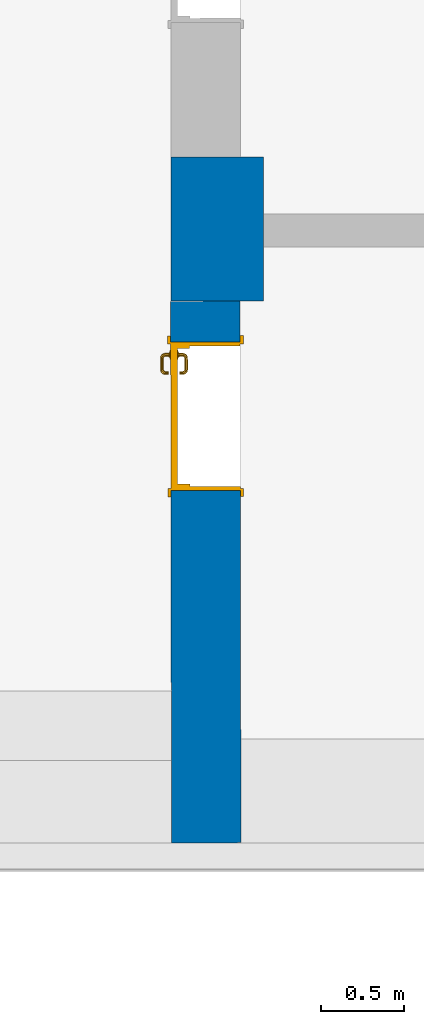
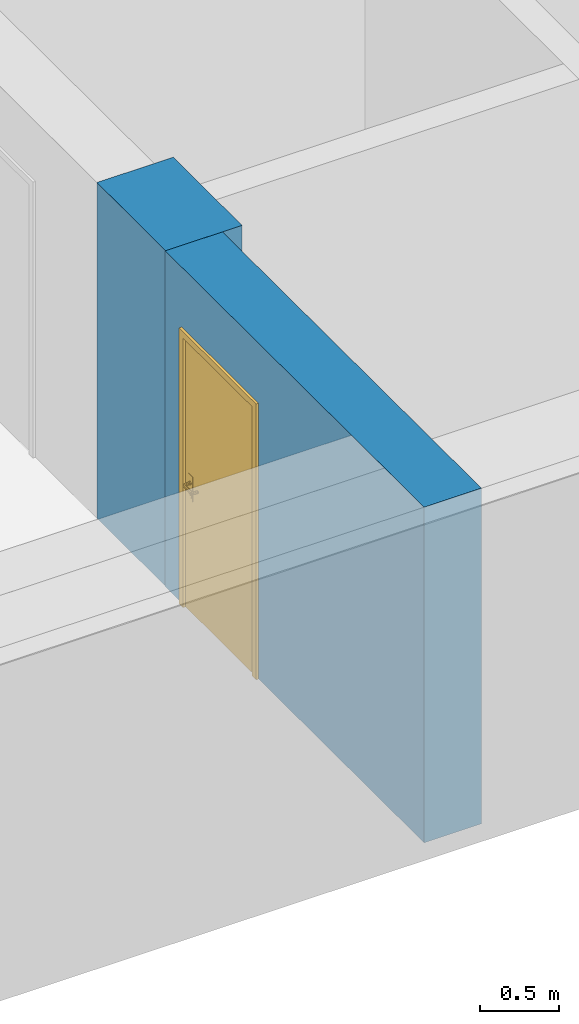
# One storey, part 15 of 127: 2 walls, 1 door, 1 opening.
"""IFC2X3 building model written with IfcOpenShell, lengths in millimetres."""

from ifc_helpers import new_model, entity, si_unit, converted_unit, derived_unit, money_unit, direction, frame, origin_with_axes, origin_2d_with_axis, place, context, subcontext, project, spatial, polyline, rectangle, outline, extrude, open_shell, faceted_brep, surface_model, source, transform, mapped, material, layer, layer_set, layer_usage, type_object, element, fill, save


model = new_model("IFC2X3")

# Units and contexts
model_context = context("Model", 3, precision=1e-05, world=origin_with_axes(), true_north=direction((0.0, 1.0)))
body_context = subcontext(model_context, "Body", "Model", "MODEL_VIEW")
ifc_project = project(units=[si_unit("LENGTHUNIT", "METRE", prefix="MILLI"), si_unit("AREAUNIT", "SQUARE_METRE"), si_unit("VOLUMEUNIT", "CUBIC_METRE"), converted_unit("PLANEANGLEUNIT", "DEGREE", entity("IfcPlaneAngleMeasure", 0.0174532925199), si_unit("PLANEANGLEUNIT", "RADIAN"), dimensions=[0, 0, 0, 0, 0, 0, 0]), si_unit("SOLIDANGLEUNIT", "STERADIAN"), money_unit("EUR"), converted_unit("TIMEUNIT", "Year", entity("IfcTimeMeasure", 31556926.0), si_unit("TIMEUNIT", "SECOND"), dimensions=[0, 0, 1, 0, 0, 0, 0]), si_unit("MASSUNIT", "GRAM", prefix="KILO"), si_unit("THERMODYNAMICTEMPERATUREUNIT", "DEGREE_CELSIUS"), si_unit("LUMINOUSINTENSITYUNIT", "LUMEN"), si_unit("ENERGYUNIT", "JOULE", prefix="MEGA"), derived_unit("THERMALCONDUCTANCEUNIT", [(si_unit("POWERUNIT", "WATT"), 1), (si_unit("LENGTHUNIT", "METRE"), -1), (si_unit("THERMODYNAMICTEMPERATUREUNIT", "KELVIN"), -1)]), derived_unit("SPECIFICHEATCAPACITYUNIT", [(si_unit("ENERGYUNIT", "JOULE"), 1), (si_unit("MASSUNIT", "GRAM", prefix="KILO"), -1), (si_unit("THERMODYNAMICTEMPERATUREUNIT", "KELVIN"), -1)]), derived_unit("MASSDENSITYUNIT", [(si_unit("MASSUNIT", "GRAM", prefix="KILO"), 1), (si_unit("VOLUMEUNIT", "CUBIC_METRE"), -1)])], contexts=[model_context])

# Site, building, storey
site_placement = place(None, origin_with_axes())
site = spatial("IfcSite", under=ifc_project, at=site_placement, Name="Site", CompositionType="ELEMENT")
building_placement = place(site_placement, origin_with_axes())
building = spatial("IfcBuilding", under=site, at=building_placement, Name="Building", CompositionType="ELEMENT")
storey_placement = place(building_placement, origin_with_axes())
storey = spatial("IfcBuildingStorey", under=building, at=storey_placement, Name="1 KORRUS", CompositionType="ELEMENT", Elevation=0.0)

# Wall
ifc_material = material(Name="Kivi -Ol.Olev Konstruktsioon")
ifc_layer_1 = layer(ifc_material, 560.0, ventilated="UNKNOWN")
ifc_layer_set_1 = layer_set([ifc_layer_1], Name="ol.olev ss 560")
ifc_layer_usage_1 = layer_usage(ifc_layer_set_1, "AXIS2", "POSITIVE", 0.0)
wall_type = type_object("IfcWallType", Name="SW - 036", PredefinedType="NOTDEFINED")
wall_1_placement = place(storey_placement, frame((87737.4202763, 38410.2609217, 0.0), z_axis=(0.0, 0.0, 1.0), x_axis=(1.33588272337e-10, -1.0, 0.0)))
element("IfcWallStandardCase", 1, at=wall_1_placement, inside=storey, type_object=wall_type, material=ifc_layer_usage_1, Name="ol.olev ss 560", context=body_context, shape_type="SweptSolid", body=[
    extrude(outline(polyline([(-9.09494701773e-10, 0.0), (871.448666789, 0.0), (871.448666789, 560.0), (-0.340952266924, 560.0), (-9.09494701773e-10, 0.0)])), origin_with_axes(), (0.0, 0.0, 1.0), 2600.0),
])

# Wall, opening, door
ifc_layer_2 = layer(ifc_material, 420.0, ventilated="UNKNOWN")
ifc_layer_set_2 = layer_set([ifc_layer_2], Name="ol.olev ss 420")
ifc_layer_usage_2 = layer_usage(ifc_layer_set_2, "AXIS2", "POSITIVE", 0.0)
wall_2_placement = place(storey_placement, frame((87734.4179407, 37538.4659637, 0.0), z_axis=(0.0, 0.0, 1.0), x_axis=(0.00162531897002, -0.999998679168, 0.0)))
wall_2 = element("IfcWallStandardCase", 2, at=wall_2_placement, inside=storey, type_object=wall_type, material=ifc_layer_usage_2, Name="ol.olev ss 420", context=body_context, shape_type="SweptSolid", body=[
    extrude(outline(polyline([(0.0, 0.0), (3276.29877416, 0.0), (3276.29877416, 420.0), (0.0, 420.0), (0.0, 0.0)])), origin_with_axes(), (0.0, 0.0, 1.0), 2600.0),
])
opening_placement = place(wall_2_placement, frame((695.574973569, -1.13686837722e-10, 0.0), z_axis=(0.0, 0.0, 1.0), x_axis=(1.0, 0.0, 0.0)))
opening = element("IfcOpeningElement", 3, at=opening_placement, cuts=wall_2, Name="Siseuks * Door 22", context=body_context, shape_type="SweptSolid", body=[
    extrude(rectangle(XDim=899.999999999, YDim=2100.0, at=origin_2d_with_axis()), frame((0.0, 420.0, 1050.0), z_axis=(0.0, 1.0, 0.0), x_axis=(1.0, 0.0, 0.0)), (0.0, 0.0, -1.0), 1260.0),
    extrude(rectangle(XDim=973.999999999, YDim=2137.0, at=origin_2d_with_axis()), frame((-9.09494701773e-10, 420.0, 1068.5), z_axis=(0.0, 1.0, 0.0), x_axis=(1.0, 0.0, 0.0)), (0.0, 0.0, 1.0), 420.0),
    extrude(rectangle(XDim=973.999999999, YDim=2137.0, at=origin_2d_with_axis()), frame((0.0, 0.0, 1068.5), z_axis=(0.0, -1.0, 0.0), x_axis=(1.0, 0.0, 0.0)), (0.0, 0.0, 1.0), 420.0),
])
door_style = type_object("IfcDoorStyle", Name="SU-B131B   900×2\xa0100", ConstructionType="NOTDEFINED", OperationType="SINGLE_SWING_LEFT", ParameterTakesPrecedence=False, Sizeable=False)
shared_shape = source(origin_with_axes(), body_context, "Body", "SurfaceModel", [
    faceted_brep([(450.0, -115.0, 0.0), (450.0, -420.0, 0.0), (425.0, -420.0, 0.0), (425.0, -115.0, 0.0), (450.0, -115.0, 2100.0), (450.0, -420.0, 2100.0), (425.0, -420.0, 2075.0), (425.0, -115.0, 2075.0)], [[[0, 1, 2, 3]], [[4, 5, 1, 0]], [[1, 5, 6, 2]], [[3, 2, 6, 7]], [[0, 3, 7, 4]], [[7, 6, 5, 4]]]),
    faceted_brep([(-450.0, -115.0, 2100.0), (-450.0, -420.0, 2100.0), (-425.0, -420.0, 2075.0), (-425.0, -115.0, 2075.0), (-450.0, -115.0, 0.0), (-450.0, -420.0, 0.0), (-425.0, -420.0, 0.0), (-425.0, -115.0, 0.0)], [[[0, 1, 2, 3]], [[4, 5, 1, 0]], [[1, 5, 6, 2]], [[3, 2, 6, 7]], [[0, 3, 7, 4]], [[7, 6, 5, 4]]]),
    faceted_brep([(425.0, -115.0, 2075.0), (425.0, -420.0, 2075.0), (-425.0, -420.0, 2075.0), (-425.0, -115.0, 2075.0), (450.0, -115.0, 2100.0), (450.0, -420.0, 2100.0), (-450.0, -420.0, 2100.0), (-450.0, -115.0, 2100.0)], [[[0, 1, 2, 3]], [[4, 5, 1, 0]], [[1, 5, 6, 2]], [[3, 2, 6, 7]], [[0, 3, 7, 4]], [[7, 6, 5, 4]]]),
    faceted_brep([(487.0, -439.0, 0.0), (437.0, -439.0, 0.0), (437.0, -420.0, 0.0), (487.0, -420.0, 0.0), (487.0, -439.0, 2137.0), (437.0, -439.0, 2087.0), (437.0, -420.0, 2087.0), (487.0, -420.0, 2137.0)], [[[0, 1, 2, 3]], [[0, 4, 5, 1]], [[1, 5, 6, 2]], [[3, 2, 6, 7]], [[4, 0, 3, 7]], [[5, 4, 7, 6]]]),
    faceted_brep([(-487.0, -439.0, 2137.0), (-437.0, -439.0, 2087.0), (-437.0, -420.0, 2087.0), (-487.0, -420.0, 2137.0), (-487.0, -439.0, 0.0), (-437.0, -439.0, 0.0), (-437.0, -420.0, 0.0), (-487.0, -420.0, 0.0)], [[[0, 1, 2, 3]], [[0, 4, 5, 1]], [[1, 5, 6, 2]], [[3, 2, 6, 7]], [[4, 0, 3, 7]], [[5, 4, 7, 6]]]),
    faceted_brep([(487.0, -439.0, 2137.0), (437.0, -439.0, 2087.0), (437.0, -420.0, 2087.0), (487.0, -420.0, 2137.0), (-487.0, -439.0, 2137.0), (-437.0, -439.0, 2087.0), (-437.0, -420.0, 2087.0), (-487.0, -420.0, 2137.0)], [[[0, 1, 2, 3]], [[0, 4, 5, 1]], [[1, 5, 6, 2]], [[3, 2, 6, 7]], [[4, 0, 3, 7]], [[5, 4, 7, 6]]]),
    faceted_brep([(487.0, 19.0, 0.0), (487.0, 0.0, 0.0), (437.0, 0.0, 0.0), (437.0, 19.0, 0.0), (487.0, 19.0, 2137.0), (487.0, 0.0, 2137.0), (437.0, 0.0, 2087.0), (437.0, 19.0, 2087.0)], [[[0, 1, 2, 3]], [[4, 5, 1, 0]], [[1, 5, 6, 2]], [[3, 2, 6, 7]], [[0, 3, 7, 4]], [[7, 6, 5, 4]]]),
    faceted_brep([(-487.0, 19.0, 2137.0), (-487.0, 0.0, 2137.0), (-437.0, 0.0, 2087.0), (-437.0, 19.0, 2087.0), (-487.0, 19.0, 0.0), (-487.0, 0.0, 0.0), (-437.0, 0.0, 0.0), (-437.0, 19.0, 0.0)], [[[0, 1, 2, 3]], [[4, 5, 1, 0]], [[1, 5, 6, 2]], [[3, 2, 6, 7]], [[0, 3, 7, 4]], [[7, 6, 5, 4]]]),
    faceted_brep([(487.0, 19.0, 2137.0), (487.0, 0.0, 2137.0), (437.0, 0.0, 2087.0), (437.0, 19.0, 2087.0), (-487.0, 19.0, 2137.0), (-487.0, 0.0, 2137.0), (-437.0, 0.0, 2087.0), (-437.0, 19.0, 2087.0)], [[[0, 1, 2, 3]], [[4, 5, 1, 0]], [[1, 5, 6, 2]], [[3, 2, 6, 7]], [[0, 3, 7, 4]], [[7, 6, 5, 4]]]),
    faceted_brep([(410.0, -40.0, 0.0), (410.0, -115.0, 0.0), (410.0, -115.0, 2060.0), (410.0, -40.0, 2060.0), (422.0, -40.0, 0.0), (422.0, 0.0, 0.0), (450.0, 0.0, 0.0), (450.0, -115.0, 0.0), (450.0, -115.0, 2060.0), (422.0, -40.0, 2060.0), (450.0, 0.0, 2060.0), (422.0, 0.0, 2060.0)], [[[0, 1, 2, 3]], [[4, 5, 6, 7, 1, 0]], [[1, 7, 8, 2]], [[9, 3, 2, 8, 10, 11]], [[9, 4, 0, 3]], [[11, 5, 4, 9]], [[11, 10, 6, 5]], [[6, 10, 8, 7]]]),
    faceted_brep([(-422.0, -40.0, 2060.0), (-422.0, 0.0, 2060.0), (-450.0, 0.0, 2060.0), (-450.0, -115.0, 2060.0), (-410.0, -115.0, 2060.0), (-410.0, -40.0, 2060.0), (-422.0, -40.0, 0.0), (-422.0, 0.0, 0.0), (-450.0, 0.0, 0.0), (-450.0, -115.0, 0.0), (-410.0, -115.0, 0.0), (-410.0, -40.0, 0.0)], [[[0, 1, 2, 3, 4, 5]], [[0, 6, 7, 1]], [[7, 8, 2, 1]], [[2, 8, 9, 3]], [[3, 9, 10, 4]], [[5, 4, 10, 11]], [[5, 11, 6, 0]], [[6, 11, 10, 9, 8, 7]]]),
    faceted_brep([(422.0, 0.0, 2072.0), (-422.0, 0.0, 2072.0), (-422.0, 0.0, 2060.0), (-450.0, 0.0, 2060.0), (-450.0, 0.0, 2100.0), (450.0, 0.0, 2100.0), (450.0, 0.0, 2060.0), (422.0, 0.0, 2060.0), (422.0, -40.0, 2072.0), (-422.0, -40.0, 2072.0), (-422.0, -40.0, 2060.0), (-410.0, -40.0, 2060.0), (-410.0, -115.0, 2060.0), (-450.0, -115.0, 2060.0), (-450.0, -115.0, 2100.0), (450.0, -115.0, 2100.0), (450.0, -115.0, 2060.0), (422.0, -40.0, 2060.0), (410.0, -115.0, 2060.0), (410.0, -40.0, 2060.0)], [[[0, 1, 2, 3, 4, 5, 6, 7]], [[0, 8, 9, 1]], [[1, 9, 10, 2]], [[10, 11, 12, 13, 3, 2]], [[4, 3, 13, 14]], [[5, 4, 14, 15]], [[6, 5, 15, 16]], [[17, 7, 6, 16, 18, 19]], [[7, 17, 8, 0]], [[10, 9, 8, 17, 19, 11]], [[19, 18, 12, 11]], [[12, 18, 16, 15, 14, 13]]]),
    faceted_brep([(400.5, -40.0, 1060.0), (343.5, -40.0, 1060.0), (343.5, -43.0, 1060.0), (400.5, -43.0, 1060.0), (400.5, -40.0, 870.0), (343.5, -40.0, 870.0), (343.5, -43.0, 870.0), (400.5, -43.0, 870.0)], [[[0, 1, 2, 3]], [[0, 4, 5, 1]], [[1, 5, 6, 2]], [[3, 2, 6, 7]], [[4, 0, 3, 7]], [[5, 4, 7, 6]]]),
    surface_model("IfcShellBasedSurfaceModel", [(362.0, -53.0, 1000.0), (364.928932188, -53.0, 992.928932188), (364.928932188, -72.303560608, 992.928932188), (362.0, -72.0150859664, 1000.0), (372.0, -53.0, 990.0), (372.0, -73.0, 990.0), (363.816790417, -77.8946748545, 992.928932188), (361.057796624, -76.751862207, 1000.0), (364.928932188, -53.0, 1007.07106781), (364.928932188, -72.303560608, 1007.07106781), (379.071067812, -53.0, 992.928932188), (379.071067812, -73.696439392, 992.928932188), (370.47759065, -80.6536686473, 990.0), (361.044179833, -82.0441798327, 992.928932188), (358.932537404, -79.9325374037, 1000.0), (363.816790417, -77.8946748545, 1007.07106781), (372.0, -53.0, 1010.0), (372.0, -73.0, 1010.0), (382.0, -53.0, 1000.0), (382.0, -73.9849140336, 1000.0), (377.138390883, -83.4126624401, 992.928932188), (366.142135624, -87.1421356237, 990.0), (356.894674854, -84.8167904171, 992.928932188), (355.751862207, -82.0577966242, 1000.0), (361.044179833, -82.0441798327, 1007.07106781), (370.47759065, -80.6536686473, 1010.0), (379.071067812, -53.0, 1007.07106781), (379.071067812, -73.696439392, 1007.07106781), (379.897384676, -84.5554750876, 1000.0), (371.240091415, -92.2400914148, 992.928932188), (359.653668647, -91.4775906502, 990.0), (351.303560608, -85.9289321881, 992.928932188), (351.015085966, -83.0, 1000.0), (356.894674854, -84.8167904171, 1007.07106781), (366.142135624, -87.1421356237, 1010.0), (377.138390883, -83.4126624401, 1007.07106781), (373.351733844, -94.3517338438, 1000.0), (362.41266244, -98.1383908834, 992.928932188), (352.0, -93.0, 990.0), (282.696439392, -85.9289321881, 992.928932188), (282.984914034, -83.0, 1000.0), (351.303560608, -85.9289321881, 1007.07106781), (359.653668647, -91.4775906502, 1010.0), (371.240091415, -92.2400914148, 1007.07106781), (363.555475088, -100.897384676, 1000.0), (352.696439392, -100.071067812, 992.928932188), (282.0, -93.0, 990.0), (277.105325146, -84.8167904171, 992.928932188), (278.248137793, -82.0577966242, 1000.0), (282.696439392, -85.9289321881, 1007.07106781), (352.0, -93.0, 1010.0), (362.41266244, -98.1383908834, 1007.07106781), (352.984914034, -103.0, 1000.0), (281.303560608, -100.071067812, 992.928932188), (274.346331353, -91.4775906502, 990.0), (272.955820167, -82.0441798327, 992.928932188), (275.067462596, -79.9325374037, 1000.0), (277.105325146, -84.8167904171, 1007.07106781), (282.0, -93.0, 1010.0), (352.696439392, -100.071067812, 1007.07106781), (281.015085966, -103.0, 1000.0), (271.58733756, -98.1383908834, 992.928932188), (267.857864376, -87.1421356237, 990.0), (270.183209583, -77.8946748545, 992.928932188), (272.942203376, -76.751862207, 1000.0), (272.955820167, -82.0441798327, 1007.07106781), (274.346331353, -91.4775906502, 1010.0), (281.303560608, -100.071067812, 1007.07106781), (270.444524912, -100.897384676, 1000.0), (262.759908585, -92.2400914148, 992.928932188), (263.52240935, -80.6536686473, 990.0), (269.071067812, -72.303560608, 992.928932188), (272.0, -72.0150859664, 1000.0), (270.183209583, -77.8946748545, 1007.07106781), (267.857864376, -87.1421356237, 1010.0), (271.58733756, -98.1383908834, 1007.07106781), (260.648266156, -94.3517338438, 1000.0), (256.861609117, -83.4126624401, 992.928932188), (262.0, -73.0, 990.0), (269.071067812, -53.0, 992.928932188), (272.0, -53.0, 1000.0), (269.071067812, -72.303560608, 1007.07106781), (263.52240935, -80.6536686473, 1010.0), (262.759908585, -92.2400914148, 1007.07106781), (254.102615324, -84.5554750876, 1000.0), (254.928932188, -73.696439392, 992.928932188), (262.0, -53.0, 990.0), (254.928932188, -53.0, 992.928932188), (252.0, -53.0, 1000.0), (254.928932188, -53.0, 1007.07106781), (262.0, -53.0, 1010.0), (269.071067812, -53.0, 1007.07106781), (262.0, -73.0, 1010.0), (256.861609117, -83.4126624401, 1007.07106781), (252.0, -73.9849140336, 1000.0), (254.928932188, -73.696439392, 1007.07106781)], [open_shell([[[0, 1, 2, 3]], [[1, 4, 5, 2]], [[3, 2, 6, 7]], [[8, 0, 3, 9]], [[4, 10, 11, 5]], [[2, 5, 12, 6]], [[7, 6, 13, 14]], [[9, 3, 7, 15]], [[16, 8, 9, 17]], [[10, 18, 19, 11]], [[5, 11, 20, 12]], [[6, 12, 21, 13]], [[14, 13, 22, 23]], [[15, 7, 14, 24]], [[17, 9, 15, 25]], [[26, 16, 17, 27]], [[18, 26, 27, 19]], [[11, 19, 28, 20]], [[12, 20, 29, 21]], [[13, 21, 30, 22]], [[23, 22, 31, 32]], [[24, 14, 23, 33]], [[25, 15, 24, 34]], [[27, 17, 25, 35]], [[19, 27, 35, 28]], [[20, 28, 36, 29]], [[21, 29, 37, 30]], [[22, 30, 38, 31]], [[32, 31, 39, 40]], [[33, 23, 32, 41]], [[34, 24, 33, 42]], [[35, 25, 34, 43]], [[28, 35, 43, 36]], [[29, 36, 44, 37]], [[30, 37, 45, 38]], [[31, 38, 46, 39]], [[40, 39, 47, 48]], [[41, 32, 40, 49]], [[42, 33, 41, 50]], [[43, 34, 42, 51]], [[36, 43, 51, 44]], [[37, 44, 52, 45]], [[38, 45, 53, 46]], [[39, 46, 54, 47]], [[48, 47, 55, 56]], [[49, 40, 48, 57]], [[50, 41, 49, 58]], [[51, 42, 50, 59]], [[44, 51, 59, 52]], [[45, 52, 60, 53]], [[46, 53, 61, 54]], [[47, 54, 62, 55]], [[56, 55, 63, 64]], [[57, 48, 56, 65]], [[58, 49, 57, 66]], [[59, 50, 58, 67]], [[52, 59, 67, 60]], [[53, 60, 68, 61]], [[54, 61, 69, 62]], [[55, 62, 70, 63]], [[64, 63, 71, 72]], [[65, 56, 64, 73]], [[66, 57, 65, 74]], [[67, 58, 66, 75]], [[60, 67, 75, 68]], [[61, 68, 76, 69]], [[62, 69, 77, 70]], [[63, 70, 78, 71]], [[72, 71, 79, 80]], [[73, 64, 72, 81]], [[74, 65, 73, 82]], [[75, 66, 74, 83]], [[68, 75, 83, 76]], [[69, 76, 84, 77]], [[70, 77, 85, 78]], [[71, 78, 86, 79]], [[80, 79, 86, 87, 88, 89, 90, 91]], [[81, 72, 80, 91]], [[82, 73, 81, 92]], [[83, 74, 82, 93]], [[76, 83, 93, 84]], [[77, 84, 94, 85]], [[78, 85, 87, 86]], [[85, 94, 88, 87]], [[94, 95, 89, 88]], [[95, 92, 90, 89]], [[92, 81, 91, 90]], [[93, 82, 92, 95]], [[84, 93, 95, 94]]])]),
    faceted_brep([(361.607695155, -53.0, 994.0), (360.0, -53.0, 1000.0), (359.0, -43.0, 1000.0), (360.741669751, -43.0, 993.5), (366.0, -53.0, 989.607695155), (372.0, -53.0, 988.0), (378.0, -53.0, 989.607695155), (382.392304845, -53.0, 994.0), (384.0, -53.0, 1000.0), (382.392304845, -53.0, 1006.0), (378.0, -53.0, 1010.39230485), (372.0, -53.0, 1012.0), (366.0, -53.0, 1010.39230485), (361.607695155, -53.0, 1006.0), (360.741669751, -43.0, 1006.5), (365.5, -43.0, 1011.25833025), (372.0, -43.0, 1013.0), (378.5, -43.0, 1011.25833025), (383.258330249, -43.0, 1006.5), (385.0, -43.0, 1000.0), (383.258330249, -43.0, 993.5), (378.5, -43.0, 988.741669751), (372.0, -43.0, 987.0), (365.5, -43.0, 988.741669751)], [[[0, 1, 2, 3]], [[1, 0, 4, 5, 6, 7, 8, 9, 10, 11, 12, 13]], [[1, 13, 14, 2]], [[2, 14, 15, 16, 17, 18, 19, 20, 21, 22, 23, 3]], [[4, 0, 3, 23]], [[5, 4, 23, 22]], [[6, 5, 22, 21]], [[7, 6, 21, 20]], [[8, 7, 20, 19]], [[9, 8, 19, 18]], [[10, 9, 18, 17]], [[11, 10, 17, 16]], [[12, 11, 16, 15]], [[13, 12, 15, 14]]]),
    faceted_brep([(354.679491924, -47.0, 895.0), (352.0, -47.0, 905.0), (350.0, -43.0, 905.0), (352.947441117, -43.0, 894.0), (362.0, -47.0, 887.679491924), (372.0, -47.0, 885.0), (382.0, -47.0, 887.679491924), (389.320508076, -47.0, 895.0), (392.0, -47.0, 905.0), (389.320508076, -47.0, 915.0), (382.0, -47.0, 922.320508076), (372.0, -47.0, 925.0), (362.0, -47.0, 922.320508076), (354.679491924, -47.0, 915.0), (352.947441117, -43.0, 916.0), (361.0, -43.0, 924.052558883), (372.0, -43.0, 927.0), (383.0, -43.0, 924.052558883), (391.052558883, -43.0, 916.0), (394.0, -43.0, 905.0), (391.052558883, -43.0, 894.0), (383.0, -43.0, 885.947441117), (372.0, -43.0, 883.0), (361.0, -43.0, 885.947441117)], [[[0, 1, 2, 3]], [[1, 0, 4, 5, 6, 7, 8, 9, 10, 11, 12, 13]], [[1, 13, 14, 2]], [[2, 14, 15, 16, 17, 18, 19, 20, 21, 22, 23, 3]], [[4, 0, 3, 23]], [[5, 4, 23, 22]], [[6, 5, 22, 21]], [[7, 6, 21, 20]], [[8, 7, 20, 19]], [[9, 8, 19, 18]], [[10, 9, 18, 17]], [[11, 10, 17, 16]], [[12, 11, 16, 15]], [[13, 12, 15, 14]]]),
    faceted_brep([(367.050252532, -49.0, 909.050252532), (365.0, -49.0, 914.0), (364.0, -47.0, 914.0), (366.343145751, -47.0, 908.343145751), (372.0, -49.0, 907.0), (376.949747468, -49.0, 909.050252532), (379.0, -49.0, 914.0), (376.949747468, -49.0, 918.949747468), (372.0, -49.0, 921.0), (367.050252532, -49.0, 918.949747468), (366.343145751, -47.0, 919.656854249), (372.0, -47.0, 922.0), (377.656854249, -47.0, 919.656854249), (380.0, -47.0, 914.0), (377.656854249, -47.0, 908.343145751), (372.0, -47.0, 906.0)], [[[0, 1, 2, 3]], [[1, 0, 4, 5, 6, 7, 8, 9]], [[1, 9, 10, 2]], [[2, 10, 11, 12, 13, 14, 15, 3]], [[4, 0, 3, 15]], [[5, 4, 15, 14]], [[6, 5, 14, 13]], [[7, 6, 13, 12]], [[8, 7, 12, 11]], [[9, 8, 11, 10]]]),
    faceted_brep([(400.5, 0.0, 1060.0), (400.5, 3.0, 1060.0), (343.5, 3.0, 1060.0), (343.5, 0.0, 1060.0), (400.5, 0.0, 870.0), (400.5, 3.0, 870.0), (343.5, 3.0, 870.0), (343.5, 0.0, 870.0)], [[[0, 1, 2, 3]], [[4, 5, 1, 0]], [[1, 5, 6, 2]], [[3, 2, 6, 7]], [[0, 3, 7, 4]], [[7, 6, 5, 4]]]),
    surface_model("IfcShellBasedSurfaceModel", [(362.0, 13.0, 1000.0), (362.0, 32.0150859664, 1000.0), (364.928932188, 32.303560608, 992.928932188), (364.928932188, 13.0, 992.928932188), (364.928932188, 13.0, 1007.07106781), (364.928932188, 32.303560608, 1007.07106781), (361.057796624, 36.751862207, 1000.0), (363.816790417, 37.8946748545, 992.928932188), (372.0, 33.0, 990.0), (372.0, 13.0, 990.0), (372.0, 13.0, 1010.0), (372.0, 33.0, 1010.0), (363.816790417, 37.8946748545, 1007.07106781), (358.932537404, 39.9325374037, 1000.0), (361.044179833, 42.0441798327, 992.928932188), (370.47759065, 40.6536686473, 990.0), (379.071067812, 33.696439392, 992.928932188), (379.071067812, 13.0, 992.928932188), (379.071067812, 13.0, 1007.07106781), (379.071067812, 33.696439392, 1007.07106781), (370.47759065, 40.6536686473, 1010.0), (361.044179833, 42.0441798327, 1007.07106781), (355.751862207, 42.0577966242, 1000.0), (356.894674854, 44.8167904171, 992.928932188), (366.142135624, 47.1421356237, 990.0), (377.138390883, 43.4126624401, 992.928932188), (382.0, 33.9849140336, 1000.0), (382.0, 13.0, 1000.0), (377.138390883, 43.4126624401, 1007.07106781), (366.142135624, 47.1421356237, 1010.0), (356.894674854, 44.8167904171, 1007.07106781), (351.015085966, 43.0, 1000.0), (351.303560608, 45.9289321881, 992.928932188), (359.653668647, 51.4775906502, 990.0), (371.240091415, 52.2400914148, 992.928932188), (379.897384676, 44.5554750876, 1000.0), (371.240091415, 52.2400914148, 1007.07106781), (359.653668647, 51.4775906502, 1010.0), (351.303560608, 45.9289321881, 1007.07106781), (282.984914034, 43.0, 1000.0), (282.696439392, 45.9289321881, 992.928932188), (352.0, 53.0, 990.0), (362.41266244, 58.1383908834, 992.928932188), (373.351733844, 54.3517338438, 1000.0), (362.41266244, 58.1383908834, 1007.07106781), (352.0, 53.0, 1010.0), (282.696439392, 45.9289321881, 1007.07106781), (278.248137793, 42.0577966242, 1000.0), (277.105325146, 44.8167904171, 992.928932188), (282.0, 53.0, 990.0), (352.696439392, 60.0710678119, 992.928932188), (363.555475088, 60.8973846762, 1000.0), (352.696439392, 60.0710678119, 1007.07106781), (282.0, 53.0, 1010.0), (277.105325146, 44.8167904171, 1007.07106781), (275.067462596, 39.9325374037, 1000.0), (272.955820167, 42.0441798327, 992.928932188), (274.346331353, 51.4775906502, 990.0), (281.303560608, 60.0710678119, 992.928932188), (352.984914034, 63.0, 1000.0), (281.303560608, 60.0710678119, 1007.07106781), (274.346331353, 51.4775906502, 1010.0), (272.955820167, 42.0441798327, 1007.07106781), (272.942203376, 36.751862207, 1000.0), (270.183209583, 37.8946748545, 992.928932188), (267.857864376, 47.1421356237, 990.0), (271.58733756, 58.1383908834, 992.928932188), (281.015085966, 63.0, 1000.0), (271.58733756, 58.1383908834, 1007.07106781), (267.857864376, 47.1421356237, 1010.0), (270.183209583, 37.8946748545, 1007.07106781), (272.0, 32.0150859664, 1000.0), (269.071067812, 32.303560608, 992.928932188), (263.52240935, 40.6536686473, 990.0), (262.759908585, 52.2400914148, 992.928932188), (270.444524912, 60.8973846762, 1000.0), (262.759908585, 52.2400914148, 1007.07106781), (263.52240935, 40.6536686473, 1010.0), (269.071067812, 32.303560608, 1007.07106781), (272.0, 13.0, 1000.0), (269.071067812, 13.0, 992.928932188), (262.0, 33.0, 990.0), (256.861609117, 43.4126624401, 992.928932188), (260.648266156, 54.3517338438, 1000.0), (256.861609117, 43.4126624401, 1007.07106781), (262.0, 33.0, 1010.0), (269.071067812, 13.0, 1007.07106781), (262.0, 13.0, 1010.0), (254.928932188, 13.0, 1007.07106781), (252.0, 13.0, 1000.0), (254.928932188, 13.0, 992.928932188), (262.0, 13.0, 990.0), (254.928932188, 33.696439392, 992.928932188), (254.102615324, 44.5554750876, 1000.0), (254.928932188, 33.696439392, 1007.07106781), (252.0, 33.9849140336, 1000.0)], [open_shell([[[0, 1, 2, 3]], [[4, 5, 1, 0]], [[1, 6, 7, 2]], [[3, 2, 8, 9]], [[10, 11, 5, 4]], [[5, 12, 6, 1]], [[6, 13, 14, 7]], [[2, 7, 15, 8]], [[9, 8, 16, 17]], [[18, 19, 11, 10]], [[11, 20, 12, 5]], [[12, 21, 13, 6]], [[13, 22, 23, 14]], [[7, 14, 24, 15]], [[8, 15, 25, 16]], [[17, 16, 26, 27]], [[27, 26, 19, 18]], [[19, 28, 20, 11]], [[20, 29, 21, 12]], [[21, 30, 22, 13]], [[22, 31, 32, 23]], [[14, 23, 33, 24]], [[15, 24, 34, 25]], [[16, 25, 35, 26]], [[26, 35, 28, 19]], [[28, 36, 29, 20]], [[29, 37, 30, 21]], [[30, 38, 31, 22]], [[31, 39, 40, 32]], [[23, 32, 41, 33]], [[24, 33, 42, 34]], [[25, 34, 43, 35]], [[35, 43, 36, 28]], [[36, 44, 37, 29]], [[37, 45, 38, 30]], [[38, 46, 39, 31]], [[39, 47, 48, 40]], [[32, 40, 49, 41]], [[33, 41, 50, 42]], [[34, 42, 51, 43]], [[43, 51, 44, 36]], [[44, 52, 45, 37]], [[45, 53, 46, 38]], [[46, 54, 47, 39]], [[47, 55, 56, 48]], [[40, 48, 57, 49]], [[41, 49, 58, 50]], [[42, 50, 59, 51]], [[51, 59, 52, 44]], [[52, 60, 53, 45]], [[53, 61, 54, 46]], [[54, 62, 55, 47]], [[55, 63, 64, 56]], [[48, 56, 65, 57]], [[49, 57, 66, 58]], [[50, 58, 67, 59]], [[59, 67, 60, 52]], [[60, 68, 61, 53]], [[61, 69, 62, 54]], [[62, 70, 63, 55]], [[63, 71, 72, 64]], [[56, 64, 73, 65]], [[57, 65, 74, 66]], [[58, 66, 75, 67]], [[67, 75, 68, 60]], [[68, 76, 69, 61]], [[69, 77, 70, 62]], [[70, 78, 71, 63]], [[71, 79, 80, 72]], [[64, 72, 81, 73]], [[65, 73, 82, 74]], [[66, 74, 83, 75]], [[75, 83, 76, 68]], [[76, 84, 77, 69]], [[77, 85, 78, 70]], [[78, 86, 79, 71]], [[79, 86, 87, 88, 89, 90, 91, 80]], [[72, 80, 91, 81]], [[73, 81, 92, 82]], [[74, 82, 93, 83]], [[83, 93, 84, 76]], [[84, 94, 85, 77]], [[85, 87, 86, 78]], [[94, 88, 87, 85]], [[95, 89, 88, 94]], [[92, 90, 89, 95]], [[81, 91, 90, 92]], [[82, 92, 95, 93]], [[93, 95, 94, 84]]])]),
    faceted_brep([(361.607695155, 13.0, 994.0), (360.741669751, 3.0, 993.5), (359.0, 3.0, 1000.0), (360.0, 13.0, 1000.0), (366.0, 13.0, 989.607695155), (365.5, 3.0, 988.741669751), (372.0, 3.0, 987.0), (378.5, 3.0, 988.741669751), (383.258330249, 3.0, 993.5), (385.0, 3.0, 1000.0), (383.258330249, 3.0, 1006.5), (378.5, 3.0, 1011.25833025), (372.0, 3.0, 1013.0), (365.5, 3.0, 1011.25833025), (360.741669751, 3.0, 1006.5), (361.607695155, 13.0, 1006.0), (366.0, 13.0, 1010.39230485), (372.0, 13.0, 1012.0), (378.0, 13.0, 1010.39230485), (382.392304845, 13.0, 1006.0), (384.0, 13.0, 1000.0), (382.392304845, 13.0, 994.0), (378.0, 13.0, 989.607695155), (372.0, 13.0, 988.0)], [[[0, 1, 2, 3]], [[4, 5, 1, 0]], [[2, 1, 5, 6, 7, 8, 9, 10, 11, 12, 13, 14]], [[3, 2, 14, 15]], [[3, 15, 16, 17, 18, 19, 20, 21, 22, 23, 4, 0]], [[23, 6, 5, 4]], [[22, 7, 6, 23]], [[21, 8, 7, 22]], [[20, 9, 8, 21]], [[19, 10, 9, 20]], [[18, 11, 10, 19]], [[17, 12, 11, 18]], [[16, 13, 12, 17]], [[15, 14, 13, 16]]]),
    faceted_brep([(354.679491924, 7.0, 895.0), (352.947441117, 3.0, 894.0), (350.0, 3.0, 905.0), (352.0, 7.0, 905.0), (362.0, 7.0, 887.679491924), (361.0, 3.0, 885.947441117), (372.0, 3.0, 883.0), (383.0, 3.0, 885.947441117), (391.052558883, 3.0, 894.0), (394.0, 3.0, 905.0), (391.052558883, 3.0, 916.0), (383.0, 3.0, 924.052558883), (372.0, 3.0, 927.0), (361.0, 3.0, 924.052558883), (352.947441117, 3.0, 916.0), (354.679491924, 7.0, 915.0), (362.0, 7.0, 922.320508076), (372.0, 7.0, 925.0), (382.0, 7.0, 922.320508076), (389.320508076, 7.0, 915.0), (392.0, 7.0, 905.0), (389.320508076, 7.0, 895.0), (382.0, 7.0, 887.679491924), (372.0, 7.0, 885.0)], [[[0, 1, 2, 3]], [[4, 5, 1, 0]], [[2, 1, 5, 6, 7, 8, 9, 10, 11, 12, 13, 14]], [[3, 2, 14, 15]], [[3, 15, 16, 17, 18, 19, 20, 21, 22, 23, 4, 0]], [[23, 6, 5, 4]], [[22, 7, 6, 23]], [[21, 8, 7, 22]], [[20, 9, 8, 21]], [[19, 10, 9, 20]], [[18, 11, 10, 19]], [[17, 12, 11, 18]], [[16, 13, 12, 17]], [[15, 14, 13, 16]]]),
    faceted_brep([(367.050252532, 9.0, 909.050252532), (366.343145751, 7.0, 908.343145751), (364.0, 7.0, 914.0), (365.0, 9.0, 914.0), (372.0, 9.0, 907.0), (372.0, 7.0, 906.0), (377.656854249, 7.0, 908.343145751), (380.0, 7.0, 914.0), (377.656854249, 7.0, 919.656854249), (372.0, 7.0, 922.0), (366.343145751, 7.0, 919.656854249), (367.050252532, 9.0, 918.949747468), (372.0, 9.0, 921.0), (376.949747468, 9.0, 918.949747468), (379.0, 9.0, 914.0), (376.949747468, 9.0, 909.050252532)], [[[0, 1, 2, 3]], [[4, 5, 1, 0]], [[2, 1, 5, 6, 7, 8, 9, 10]], [[3, 2, 10, 11]], [[3, 11, 12, 13, 14, 15, 4, 0]], [[15, 6, 5, 4]], [[14, 7, 6, 15]], [[13, 8, 7, 14]], [[12, 9, 8, 13]], [[11, 10, 9, 12]]]),
    faceted_brep([(-422.0, 0.0, 0.0), (422.0, 0.0, 0.0), (422.0, -40.0, 0.0), (-422.0, -40.0, 0.0), (-422.0, 0.0, 2072.0), (422.0, 0.0, 2072.0), (422.0, -40.0, 2072.0), (-422.0, -40.0, 2072.0)], [[[0, 1, 2, 3]], [[0, 4, 5, 1]], [[1, 5, 6, 2]], [[3, 2, 6, 7]], [[4, 0, 3, 7]], [[5, 4, 7, 6]]]),
])
door_placement = place(opening_placement, frame((450.0, 2.27373675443e-10, 0.0), z_axis=(0.0, 0.0, 1.0), x_axis=(-1.0, 0.0, 0.0)))
door = element("IfcDoor", 4, at=door_placement, inside=storey, type_object=door_style, Name="Siseuks * Door 22", OverallHeight=2100.0, OverallWidth=900.0, context=body_context, shape_type="MappedRepresentation", body=[
    mapped(shared_shape, transform((450.0, 1.13686837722e-10, 0.0))),
])
fill(opening, door)

save(model, "model.ifc")
